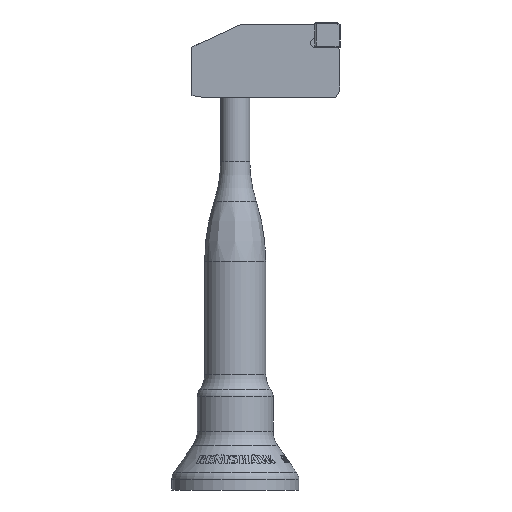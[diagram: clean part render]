
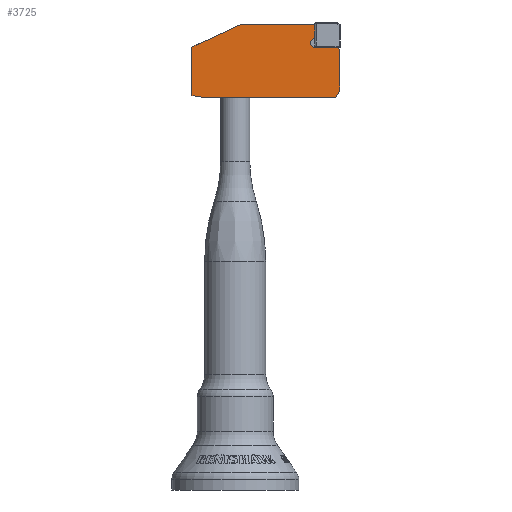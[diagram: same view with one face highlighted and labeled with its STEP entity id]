
A CAD part, left-side view. The second image highlights one B-rep face of the part: STEP entity #3725.
In plain terms, the highlighted planar face has unit normal (-1, 0, 0).
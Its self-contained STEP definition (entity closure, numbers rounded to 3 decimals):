
#2133=LINE('',#12289,#2681);
#2142=LINE('',#12305,#2690);
#2147=LINE('',#12315,#2695);
#2148=LINE('',#12317,#2696);
#2149=LINE('',#12322,#2697);
#2150=LINE('',#12324,#2698);
#2151=LINE('',#12326,#2699);
#2152=LINE('',#12328,#2700);
#2153=LINE('',#12330,#2701);
#2681=VECTOR('',#9277,1.);
#2690=VECTOR('',#9296,1.);
#2695=VECTOR('',#9305,1.);
#2696=VECTOR('',#9306,1.);
#2697=VECTOR('',#9307,1.);
#2698=VECTOR('',#9308,1.);
#2699=VECTOR('',#9309,1.);
#2700=VECTOR('',#9310,1.);
#2701=VECTOR('',#9311,1.);
#3637=B_SPLINE_CURVE_WITH_KNOTS('',1,(#12319,#12320),.UNSPECIFIED.,.F.,.F.,
(2,2),(0.,1.),.UNSPECIFIED.);
#3725=ADVANCED_FACE('',(#4179),#3938,.T.);
#3938=PLANE('',#8686);
#4179=FACE_OUTER_BOUND('',#4492,.T.);
#4492=EDGE_LOOP('',(#5570,#5571,#5572,#5573,#5574,#5575,#5576,#5577,#5578,
#5579,#5580));
#5570=ORIENTED_EDGE('',*,*,#7895,.F.);
#5571=ORIENTED_EDGE('',*,*,#7909,.T.);
#5572=ORIENTED_EDGE('',*,*,#7910,.T.);
#5573=ORIENTED_EDGE('',*,*,#7911,.T.);
#5574=ORIENTED_EDGE('',*,*,#7912,.T.);
#5575=ORIENTED_EDGE('',*,*,#7913,.T.);
#5576=ORIENTED_EDGE('',*,*,#7914,.T.);
#5577=ORIENTED_EDGE('',*,*,#7915,.T.);
#5578=ORIENTED_EDGE('',*,*,#7916,.T.);
#5579=ORIENTED_EDGE('',*,*,#7904,.F.);
#5580=ORIENTED_EDGE('',*,*,#7854,.T.);
#7053=VERTEX_POINT('',#12198);
#7054=VERTEX_POINT('',#12200);
#7092=VERTEX_POINT('',#12288);
#7095=VERTEX_POINT('',#12306);
#7098=VERTEX_POINT('',#12316);
#7099=VERTEX_POINT('',#12318);
#7100=VERTEX_POINT('',#12321);
#7101=VERTEX_POINT('',#12323);
#7102=VERTEX_POINT('',#12325);
#7103=VERTEX_POINT('',#12327);
#7104=VERTEX_POINT('',#12329);
#7854=EDGE_CURVE('',#7054,#7053,#8478,.T.);
#7895=EDGE_CURVE('',#7092,#7053,#2133,.T.);
#7904=EDGE_CURVE('',#7054,#7095,#2142,.T.);
#7909=EDGE_CURVE('',#7092,#7098,#2147,.T.);
#7910=EDGE_CURVE('',#7098,#7099,#2148,.T.);
#7911=EDGE_CURVE('',#7099,#7100,#3637,.T.);
#7912=EDGE_CURVE('',#7100,#7101,#2149,.T.);
#7913=EDGE_CURVE('',#7101,#7102,#2150,.T.);
#7914=EDGE_CURVE('',#7102,#7103,#2151,.T.);
#7915=EDGE_CURVE('',#7103,#7104,#2152,.T.);
#7916=EDGE_CURVE('',#7104,#7095,#2153,.T.);
#8478=CIRCLE('',#8664,1.75);
#8664=AXIS2_PLACEMENT_3D('',#12199,#9211,#9212);
#8686=AXIS2_PLACEMENT_3D('',#12331,#9312,#9313);
#9211=DIRECTION('',(1.,0.,0.));
#9212=DIRECTION('',(0.,0.,1.));
#9277=DIRECTION('',(0.,0.,-1.));
#9296=DIRECTION('',(0.,-1.,0.));
#9305=DIRECTION('',(0.,1.,0.));
#9306=DIRECTION('',(0.,0.908,-0.42));
#9307=DIRECTION('',(0.,-0.985,-0.174));
#9308=DIRECTION('',(0.,-1.,0.));
#9309=DIRECTION('',(0.,-0.5,0.866));
#9310=DIRECTION('',(0.,0.,1.));
#9311=DIRECTION('',(0.,0.087,0.996));
#9312=DIRECTION('',(-1.,0.,0.));
#9313=DIRECTION('',(0.,0.,1.));
#12198=CARTESIAN_POINT('',(-25.25,-1.1,11.15));
#12199=CARTESIAN_POINT('',(-25.25,-1.1,9.4));
#12200=CARTESIAN_POINT('',(-25.25,-1.1,7.65));
#12288=CARTESIAN_POINT('',(-25.25,-1.1,16.65));
#12289=CARTESIAN_POINT('',(-25.25,-1.1,17.65));
#12305=CARTESIAN_POINT('',(-25.25,-1.1,7.65));
#12306=CARTESIAN_POINT('',(-25.25,-10.479,7.65));
#12315=CARTESIAN_POINT('',(-25.25,-8.89,16.65));
#12316=CARTESIAN_POINT('',(-25.25,28.086,16.65));
#12317=CARTESIAN_POINT('',(-25.25,28.086,16.65));
#12318=CARTESIAN_POINT('',(-25.25,47.25,7.784));
#12319=CARTESIAN_POINT('',(-25.25,47.25,7.784));
#12320=CARTESIAN_POINT('',(-25.25,47.25,-11.218));
#12321=CARTESIAN_POINT('',(-25.25,47.25,-11.218));
#12322=CARTESIAN_POINT('',(-25.25,47.25,-11.218));
#12323=CARTESIAN_POINT('',(-25.25,42.25,-12.1));
#12324=CARTESIAN_POINT('',(-25.25,42.25,-12.1));
#12325=CARTESIAN_POINT('',(-25.25,-9.25,-12.1));
#12326=CARTESIAN_POINT('',(-25.25,-9.25,-12.1));
#12327=CARTESIAN_POINT('',(-25.25,-10.75,-9.502));
#12328=CARTESIAN_POINT('',(-25.25,-10.75,-9.502));
#12329=CARTESIAN_POINT('',(-25.25,-10.75,4.55));
#12330=CARTESIAN_POINT('',(-25.25,-10.75,4.55));
#12331=CARTESIAN_POINT('',(-25.25,47.25,16.65));
